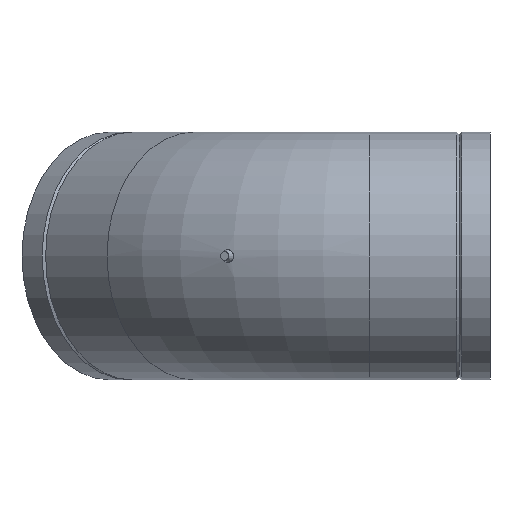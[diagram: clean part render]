
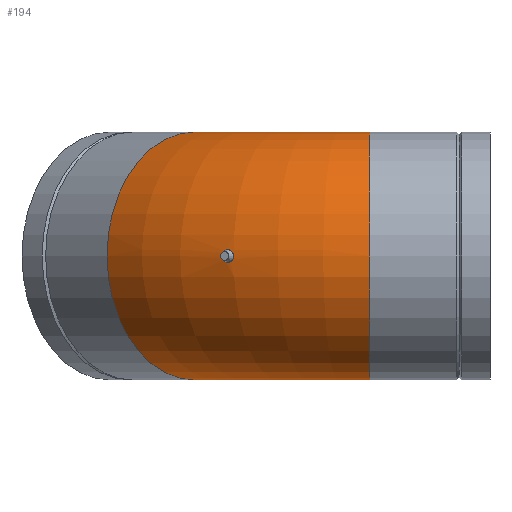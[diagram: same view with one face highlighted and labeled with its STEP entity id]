
A CAD part, left-side view. The second image highlights one B-rep face of the part: STEP entity #194.
In plain terms, the highlighted toroidal (fillet/blend) face has major radius 200 mm and minor radius 100 mm.
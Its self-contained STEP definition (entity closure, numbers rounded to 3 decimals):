
#13=TOROIDAL_SURFACE($,#219,200.,100.);
#27=FACE_BOUND($,#80,.T.);
#28=FACE_BOUND($,#81,.T.);
#45=CIRCLE($,#216,100.);
#47=CIRCLE($,#220,100.);
#61=FACE_OUTER_BOUND($,#79,.T.);
#79=EDGE_LOOP($,(#144));
#80=EDGE_LOOP($,(#145));
#81=EDGE_LOOP($,(#146));
#102=B_SPLINE_CURVE_WITH_KNOTS($,3,(#306,#307,#308,#309,#310,#311,#312,
#313,#314,#315,#316,#317,#318,#319,#320,#321,#322,#323,#324,#325,#326,#327,
#328,#329,#330,#331,#332,#333,#334,#335,#336,#337,#338,#339,#340,#341,#342,
#343,#344,#345,#346,#347),.UNSPECIFIED.,.T.,.F.,(4,2,2,2,2,2,2,2,2,2,2,
2,2,2,2,2,2,2,2,2,4),(-3.233,-3.183,-3.066,
-2.904,-2.702,-2.499,-2.303,
-2.116,-1.911,-1.758,-1.646,
-1.541,-1.417,-1.234,-1.032,
-0.828,-0.634,-0.449,-0.244,
-0.107,0.),.UNSPECIFIED.);
#103=VERTEX_POINT($,#305);
#108=VERTEX_POINT($,#359);
#110=VERTEX_POINT($,#365);
#119=EDGE_CURVE($,#103,#103,#102,.T.);
#124=EDGE_CURVE($,#108,#108,#45,.T.);
#126=EDGE_CURVE($,#110,#110,#47,.T.);
#144=ORIENTED_EDGE($,*,*,#126,.F.);
#145=ORIENTED_EDGE($,*,*,#119,.T.);
#146=ORIENTED_EDGE($,*,*,#124,.T.);
#194=ADVANCED_FACE($,(#61,#27,#28),#13,.T.);
#216=AXIS2_PLACEMENT_3D($,#360,#257,#258);
#219=AXIS2_PLACEMENT_3D($,#364,#263,#264);
#220=AXIS2_PLACEMENT_3D($,#366,#265,#266);
#257=DIRECTION('center_axis',(-0.707,-0.707,0.));
#258=DIRECTION('ref_axis',(0.707,-0.707,0.));
#263=DIRECTION('center_axis',(0.,0.,-1.));
#264=DIRECTION('ref_axis',(-1.,0.,0.));
#265=DIRECTION('center_axis',(0.,-1.,0.));
#266=DIRECTION('ref_axis',(1.,0.,0.));
#305=CARTESIAN_POINT('',(-75.164,216.675,0.));
#306=CARTESIAN_POINT('Ctrl Pts',(-75.164,216.675,0.));
#307=CARTESIAN_POINT('Ctrl Pts',(-75.164,216.675,0.166));
#308=CARTESIAN_POINT('Ctrl Pts',(-75.167,216.668,0.332));
#309=CARTESIAN_POINT('Ctrl Pts',(-75.186,216.618,0.886));
#310=CARTESIAN_POINT('Ctrl Pts',(-75.215,216.541,1.268));
#311=CARTESIAN_POINT('Ctrl Pts',(-75.319,216.265,2.151));
#312=CARTESIAN_POINT('Ctrl Pts',(-75.407,216.03,2.634));
#313=CARTESIAN_POINT('Ctrl Pts',(-75.665,215.356,3.609));
#314=CARTESIAN_POINT('Ctrl Pts',(-75.846,214.887,4.065));
#315=CARTESIAN_POINT('Ctrl Pts',(-76.268,213.813,4.76));
#316=CARTESIAN_POINT('Ctrl Pts',(-76.506,213.218,4.99));
#317=CARTESIAN_POINT('Ctrl Pts',(-77.003,212.,5.184));
#318=CARTESIAN_POINT('Ctrl Pts',(-77.257,211.391,5.154));
#319=CARTESIAN_POINT('Ctrl Pts',(-77.742,210.247,4.853));
#320=CARTESIAN_POINT('Ctrl Pts',(-77.97,209.719,4.596));
#321=CARTESIAN_POINT('Ctrl Pts',(-78.401,208.733,3.855));
#322=CARTESIAN_POINT('Ctrl Pts',(-78.596,208.295,3.359));
#323=CARTESIAN_POINT('Ctrl Pts',(-78.859,207.708,2.355));
#324=CARTESIAN_POINT('Ctrl Pts',(-78.946,207.517,1.887));
#325=CARTESIAN_POINT('Ctrl Pts',(-79.045,207.299,1.037));
#326=CARTESIAN_POINT('Ctrl Pts',(-79.07,207.243,0.667));
#327=CARTESIAN_POINT('Ctrl Pts',(-79.087,207.205,-0.053));
#328=CARTESIAN_POINT('Ctrl Pts',(-79.081,207.219,-0.401));
#329=CARTESIAN_POINT('Ctrl Pts',(-79.035,207.32,-1.157));
#330=CARTESIAN_POINT('Ctrl Pts',(-78.99,207.419,-1.559));
#331=CARTESIAN_POINT('Ctrl Pts',(-78.831,207.771,-2.507));
#332=CARTESIAN_POINT('Ctrl Pts',(-78.697,208.069,-3.026));
#333=CARTESIAN_POINT('Ctrl Pts',(-78.346,208.859,-3.973));
#334=CARTESIAN_POINT('Ctrl Pts',(-78.125,209.36,-4.376));
#335=CARTESIAN_POINT('Ctrl Pts',(-77.639,210.486,-4.951));
#336=CARTESIAN_POINT('Ctrl Pts',(-77.378,211.102,-5.113));
#337=CARTESIAN_POINT('Ctrl Pts',(-76.869,212.326,-5.164));
#338=CARTESIAN_POINT('Ctrl Pts',(-76.626,212.922,-5.066));
#339=CARTESIAN_POINT('Ctrl Pts',(-76.183,214.027,-4.645));
#340=CARTESIAN_POINT('Ctrl Pts',(-75.986,214.53,-4.335));
#341=CARTESIAN_POINT('Ctrl Pts',(-75.626,215.455,-3.497));
#342=CARTESIAN_POINT('Ctrl Pts',(-75.474,215.855,-2.957));
#343=CARTESIAN_POINT('Ctrl Pts',(-75.29,216.34,-1.943));
#344=CARTESIAN_POINT('Ctrl Pts',(-75.236,216.484,-1.51));
#345=CARTESIAN_POINT('Ctrl Pts',(-75.177,216.641,-0.713));
#346=CARTESIAN_POINT('Ctrl Pts',(-75.164,216.675,-0.357));
#347=CARTESIAN_POINT('Ctrl Pts',(-75.164,216.675,0.));
#359=CARTESIAN_POINT('',(-12.132,309.289,0.));
#360=CARTESIAN_POINT('Origin',(58.579,238.579,0.));
#364=CARTESIAN_POINT('Origin',(200.,97.157,0.));
#365=CARTESIAN_POINT('',(-100.,97.157,0.));
#366=CARTESIAN_POINT('Origin',(0.,97.157,0.));
